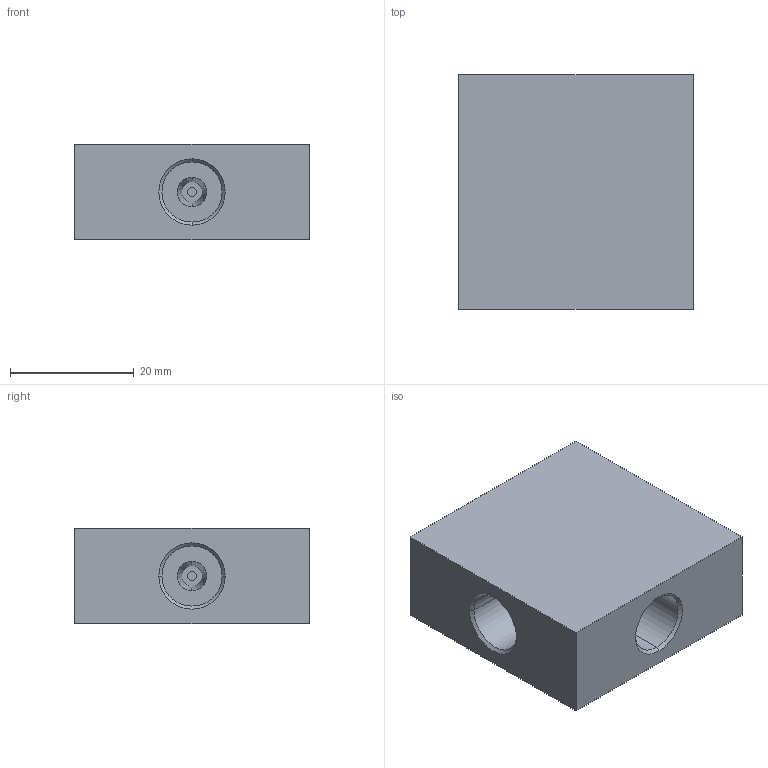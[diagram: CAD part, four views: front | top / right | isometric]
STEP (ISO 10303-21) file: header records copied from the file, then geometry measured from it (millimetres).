
FILE_DESCRIPTION (( 'STEP AP203' ), '1' );
FILE_NAME ('FT15CS02.STEP', '2026-06-26T00:47:12', ( 'USER' ), ( '' ), 'SwSTEP 2.0', 'SolidWorks 2023', '' );
FILE_SCHEMA (( 'CONFIG_CONTROL_DESIGN' ));
Length unit declared in the file: millimetre
Products named in the file (1): FT15CS02
Bounding box: 38 x 38 x 15.5 mm (x, y, z)
Volume: 19788.5 mm3; surface area: 6414.9 mm2
Topology: 1 solids, 1 shells, 58 faces, 116 edges, 72 vertices
Faces by surface type: cylinder 24, plane 18, cone 16
Entity records: 1593 total; most frequent: DIRECTION 298, CARTESIAN_POINT 247, ORIENTED_EDGE 232, AXIS2_PLACEMENT_3D 123, EDGE_CURVE 116, VERTEX_POINT 72, EDGE_LOOP 70, CIRCLE 64
